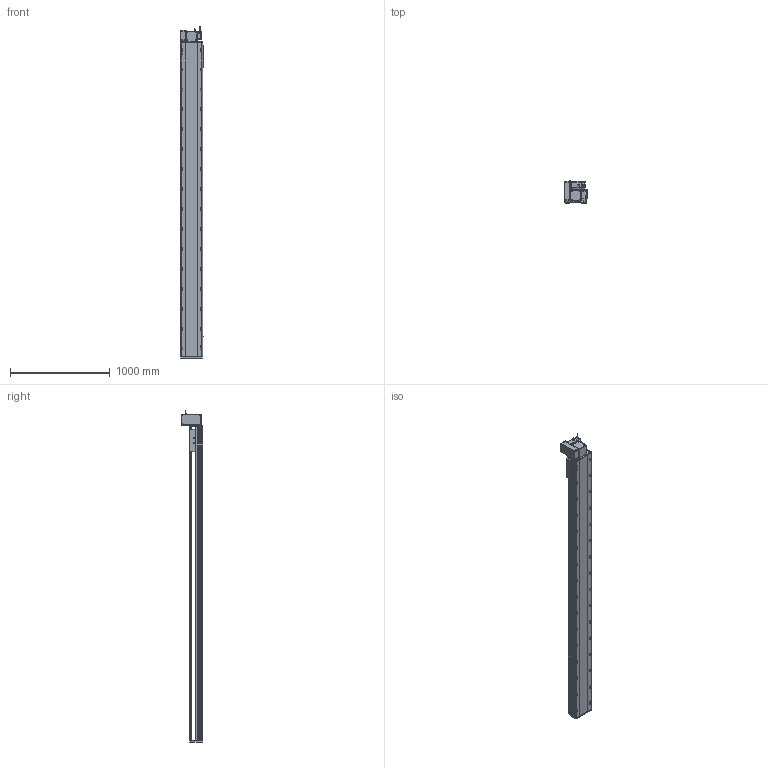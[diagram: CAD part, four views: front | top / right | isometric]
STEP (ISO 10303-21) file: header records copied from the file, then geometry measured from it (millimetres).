
FILE_DESCRIPTION (( 'STEP AP214' ), '1' );
FILE_NAME ('RTB22S-XX-2800-LW-M75-C4.STEP', '2025-12-12T07:03:58', ( '' ), ( '' ), 'SwSTEP 2.0', 'SolidWorks 2018', '' );
FILE_SCHEMA (( 'AUTOMOTIVE_DESIGN' ));
Length unit declared in the file: millimetre
Products named in the file (14): OMRON EE-SX672 传感器^RTB22S-XX-XX-LW-M75-C4; RTB22S-GY-017P^RTB22S-LW-々湍釱蚾饜_RTB22S-XX-XX-LW-M75-C4; RTB22S-GY-018P^RTB22S-LW-々湍釱蚾饜_RTB22S-XX-XX-LW-M75-C4; RTB22S-GY-001耜裔^RTB22S-XX-XX-LW-M75-C4; RTB22S-GY-014--々湍釱^RTB22S-LW-々湍釱蚾饜_RTB22S-XX-XX-LW-M75-C4; RTH22-GY-013外置感应片^RTB22S-XX-XX-LW-M75-C4; RTB22S-LW-々湍釱蚾饜^RTB22S-XX-XX-LW-M75-C4; RTB22S-L-011菁釱^RTB22S-XX-XX-LW-M75-C4; RTB22S-L-004賑釱^RTB22S-XX-XX-LW-M75-C4; 750W萇儂^RTB22S-XX-XX-LW-M75-C4; RTB22S-GY-005P^RTB22S-LW-々湍釱蚾饜_RTB22S-XX-XX-LW-M75-C4; RTB22S-GY-007奻裔^RTB22S-XX-XX-LW-M75-C4; RTB22S-GY-008-M75--萇儂啣^RTB22S-LW-々湍釱蚾饜_RTB22S-XX-XX-LW-M75-C4; RTB22S-XX-2800-LW-M75-C4
Assembly tree (16 placements, depth 3):
  RTB22S-XX-2800-LW-M75-C4
    RTB22S-L-011菁釱^RTB22S-XX-XX-LW-M75-C4
    RTB22S-GY-001耜裔^RTB22S-XX-XX-LW-M75-C4
    750W萇儂^RTB22S-XX-XX-LW-M75-C4
    RTB22S-GY-007奻裔^RTB22S-XX-XX-LW-M75-C4
    RTB22S-L-004賑釱^RTB22S-XX-XX-LW-M75-C4
    RTH22-GY-013外置感应片^RTB22S-XX-XX-LW-M75-C4
    OMRON EE-SX672 传感器^RTB22S-XX-XX-LW-M75-C4  x3
    RTB22S-LW-々湍釱蚾饜^RTB22S-XX-XX-LW-M75-C4
      RTB22S-GY-014--々湍釱^RTB22S-LW-々湍釱蚾饜_RTB22S-XX-XX-LW-M75-C4
      RTB22S-GY-017P^RTB22S-LW-々湍釱蚾饜_RTB22S-XX-XX-LW-M75-C4  x2
      RTB22S-GY-005P^RTB22S-LW-々湍釱蚾饜_RTB22S-XX-XX-LW-M75-C4
      RTB22S-GY-008-M75--萇儂啣^RTB22S-LW-々湍釱蚾饜_RTB22S-XX-XX-LW-M75-C4
      RTB22S-GY-018P^RTB22S-LW-々湍釱蚾饜_RTB22S-XX-XX-LW-M75-C4
Bounding box: 238.5 x 215.5 x 3332.2 mm (x, y, z)
Volume: 42262792.4 mm3; surface area: 4312201.7 mm2
Topology: 15 solids, 15 shells, 2127 faces, 5786 edges, 3692 vertices
Faces by surface type: plane 931, cylinder 718, bspline 296, cone 170, sphere 8, torus 4
Entity records: 58032 total; most frequent: CARTESIAN_POINT 16356, ORIENTED_EDGE 8296, DIRECTION 8122, EDGE_CURVE 4148, AXIS2_PLACEMENT_3D 2918, VERTEX_POINT 2696, VECTOR 2286, LINE 2286
